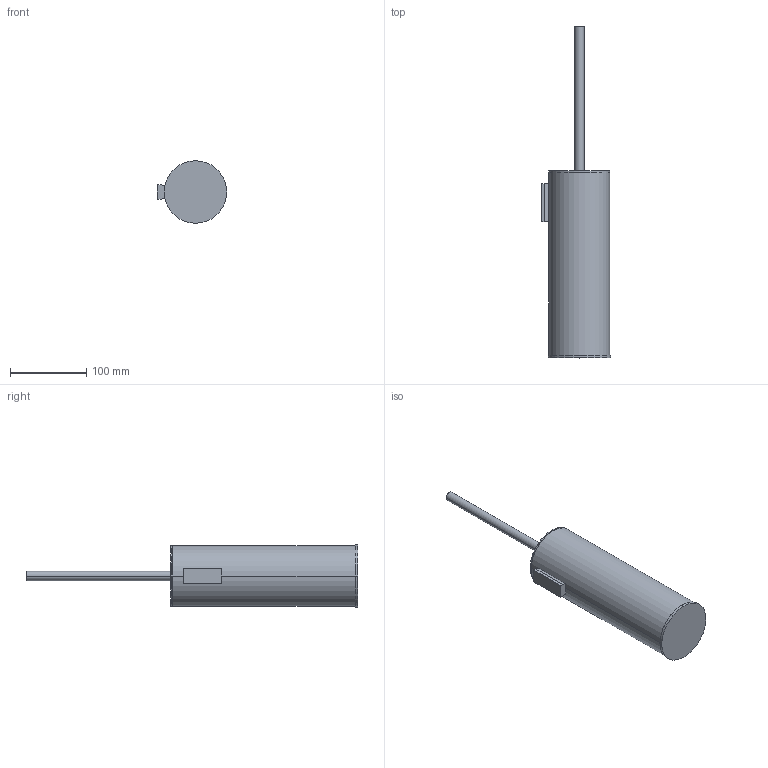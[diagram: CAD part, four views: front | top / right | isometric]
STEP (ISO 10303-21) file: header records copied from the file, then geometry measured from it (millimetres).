
FILE_DESCRIPTION((''),'2;1');
FILE_NAME('8931921_ASM','2024-04-10T16:38:36',('carloff'),(''),'CREO PARAMETRIC BY PTC INC, 2022014','CREO PARAMETRIC BY PTC INC, 2022014','');
FILE_SCHEMA(('CONFIG_CONTROL_DESIGN'));
Length unit declared in the file: millimetre
Products named in the file (2): A750210382; 8931921_ASM
Assembly tree (1 placements, depth 2):
  8931921_ASM
    A750210382
Bounding box: 91 x 435.5 x 82 mm (x, y, z)
Volume: 1264784.9 mm3; surface area: 82836.5 mm2
Topology: 2 solids, 2 shells, 30 faces, 60 edges, 38 vertices
Faces by surface type: cylinder 13, plane 11, torus 6
Entity records: 859 total; most frequent: DIRECTION 164, CARTESIAN_POINT 131, ORIENTED_EDGE 120, AXIS2_PLACEMENT_3D 71, EDGE_CURVE 60, VERTEX_POINT 38, CIRCLE 38, EDGE_LOOP 34
